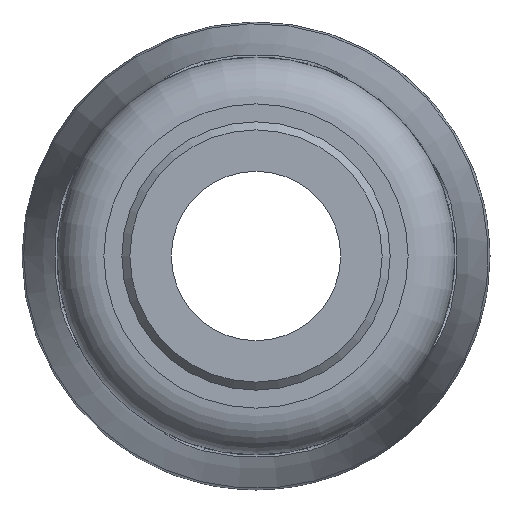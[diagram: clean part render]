
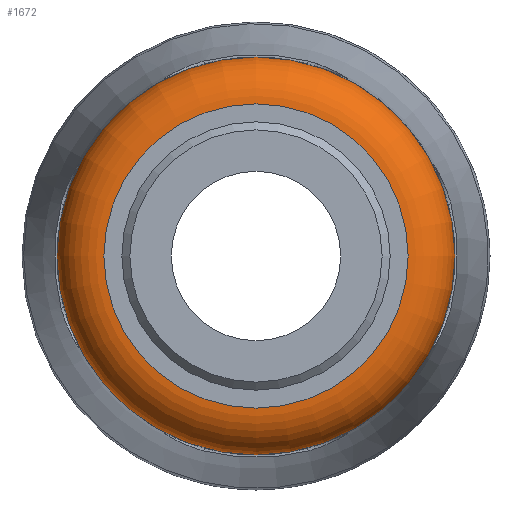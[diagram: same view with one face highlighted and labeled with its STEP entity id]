
A CAD part, left-side view. The second image highlights one B-rep face of the part: STEP entity #1672.
In plain terms, the highlighted toroidal (fillet/blend) face has major radius 18.85 mm and minor radius 5.8 mm.
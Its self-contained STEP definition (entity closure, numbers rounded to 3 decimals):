
#16=TOROIDAL_SURFACE('',#1828,18.85,5.8);
#353=FACE_BOUND('',#498,.T.);
#388=FACE_OUTER_BOUND('',#497,.T.);
#497=EDGE_LOOP('',(#1219));
#498=EDGE_LOOP('',(#1220));
#613=CIRCLE('',#1807,24.65);
#626=CIRCLE('',#1829,18.85);
#725=VERTEX_POINT('',#2850);
#735=VERTEX_POINT('',#2907);
#896=EDGE_CURVE('',#725,#725,#613,.T.);
#912=EDGE_CURVE('',#735,#735,#626,.T.);
#1219=ORIENTED_EDGE('',*,*,#912,.T.);
#1220=ORIENTED_EDGE('',*,*,#896,.T.);
#1672=ADVANCED_FACE('',(#388,#353),#16,.T.);
#1807=AXIS2_PLACEMENT_3D('',#2851,#2076,#2077);
#1828=AXIS2_PLACEMENT_3D('',#2906,#2119,#2120);
#1829=AXIS2_PLACEMENT_3D('',#2908,#2121,#2122);
#2076=DIRECTION('center_axis',(-1.,0.,0.));
#2077=DIRECTION('ref_axis',(0.,-1.,0.));
#2119=DIRECTION('center_axis',(1.,0.,0.));
#2120=DIRECTION('ref_axis',(0.,0.,-1.));
#2121=DIRECTION('center_axis',(1.,0.,0.));
#2122=DIRECTION('ref_axis',(0.,-1.,0.));
#2850=CARTESIAN_POINT('',(24.8,24.65,0.));
#2851=CARTESIAN_POINT('Origin',(24.8,0.,0.));
#2906=CARTESIAN_POINT('Origin',(24.8,0.,0.));
#2907=CARTESIAN_POINT('',(19.,18.85,0.));
#2908=CARTESIAN_POINT('Origin',(19.,0.,0.));
